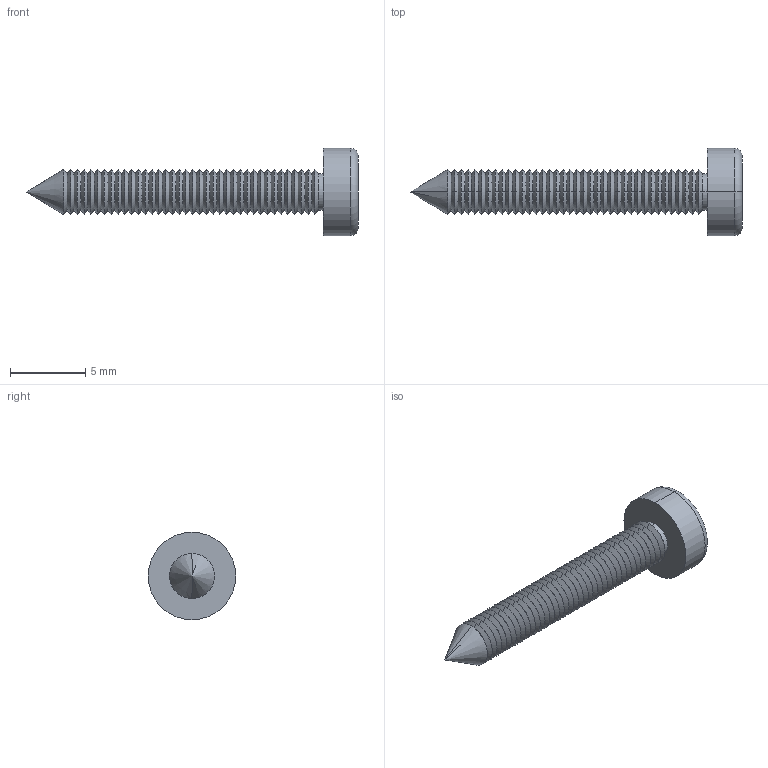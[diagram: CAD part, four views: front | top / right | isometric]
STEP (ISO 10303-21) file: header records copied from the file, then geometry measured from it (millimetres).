
FILE_DESCRIPTION (( 'STEP AP214' ), '1' );
FILE_NAME ('Cargol 3x22.STEP', '2017-08-24T07:30:08', ( 'aaa' ), ( '' ), 'SwSTEP 2.0', 'SolidWorks 2013', '' );
FILE_SCHEMA (( 'AUTOMOTIVE_DESIGN' ));
Length unit declared in the file: millimetre
Products named in the file (1): Cargol 3x22
Bounding box: 22 x 5.8 x 5.8 mm (x, y, z)
Volume: 163.4 mm3; surface area: 344.4 mm2
Topology: 1 solids, 1 shells, 173 faces, 356 edges, 185 vertices
Faces by surface type: cone 154, plane 15, torus 2, cylinder 2
Entity records: 4440 total; most frequent: DIRECTION 864, CARTESIAN_POINT 713, ORIENTED_EDGE 708, EDGE_CURVE 354, AXIS2_PLACEMENT_3D 336, VECTOR 192, LINE 192, VERTEX_POINT 185
